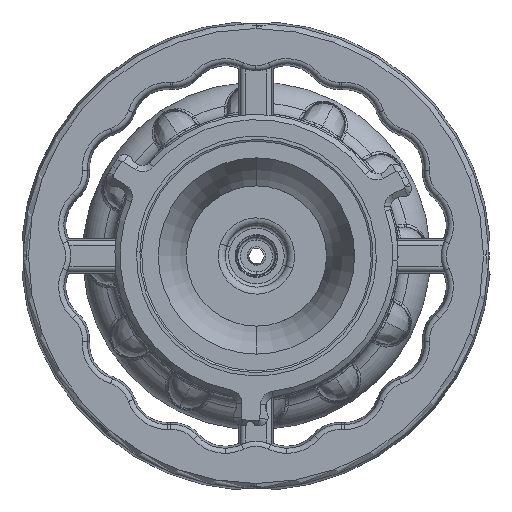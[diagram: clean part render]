
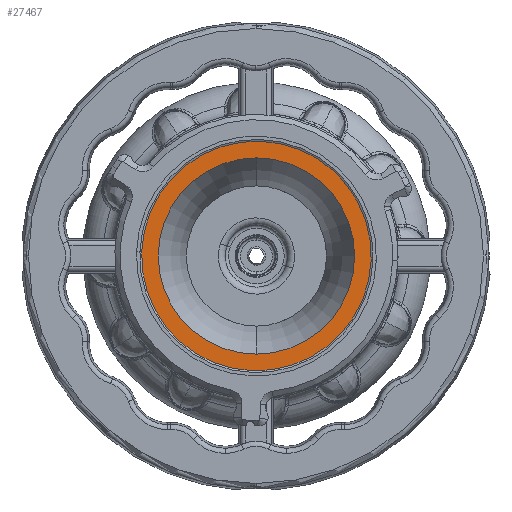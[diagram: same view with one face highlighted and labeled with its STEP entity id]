
A CAD part, left-side view. The second image highlights one B-rep face of the part: STEP entity #27467.
In plain terms, the highlighted planar face has unit normal (-1, 0, 0).
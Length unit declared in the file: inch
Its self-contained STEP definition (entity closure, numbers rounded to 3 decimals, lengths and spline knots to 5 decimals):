
#3958 = CARTESIAN_POINT ( 'NONE',  ( -3.475, 0., -1.75 ) ) ;
#3960 = CARTESIAN_POINT ( 'NONE',  ( -3.475, 0., 1.75 ) ) ;
#3968 = CARTESIAN_POINT ( 'NONE',  ( -3.475, 0., 2.15 ) ) ;
#3969 = CARTESIAN_POINT ( 'NONE',  ( -3.475, 0., -2.15 ) ) ;
#14738 = CIRCLE ( 'NONE', #21449, 1.75 ) ;
#14746 = CIRCLE ( 'NONE', #21457, 2.15 ) ;
#14748 = CIRCLE ( 'NONE', #21460, 2.15 ) ;
#14749 = CIRCLE ( 'NONE', #21461, 1.75 ) ;
#21449 = AXIS2_PLACEMENT_3D ( 'NONE', #26394, #26395, #26396 ) ;
#21457 = AXIS2_PLACEMENT_3D ( 'NONE', #26418, #26419, #26420 ) ;
#21460 = AXIS2_PLACEMENT_3D ( 'NONE', #26427, #26428, #26429 ) ;
#21461 = AXIS2_PLACEMENT_3D ( 'NONE', #26432, #26433, #26434 ) ;
#26394 = CARTESIAN_POINT ( 'NONE',  ( -3.475, 0., 0. ) ) ;
#26395 = DIRECTION ( 'NONE',  ( -1., 0., 0. ) ) ;
#26396 = DIRECTION ( 'NONE',  ( 0., 0., 1. ) ) ;
#26418 = CARTESIAN_POINT ( 'NONE',  ( -3.475, 0., 0. ) ) ;
#26419 = DIRECTION ( 'NONE',  ( -1., 0., 0. ) ) ;
#26420 = DIRECTION ( 'NONE',  ( 0., 0., 1. ) ) ;
#26427 = CARTESIAN_POINT ( 'NONE',  ( -3.475, 0., 0. ) ) ;
#26428 = DIRECTION ( 'NONE',  ( -1., 0., 0. ) ) ;
#26429 = DIRECTION ( 'NONE',  ( 0., 0., 1. ) ) ;
#26432 = CARTESIAN_POINT ( 'NONE',  ( -3.475, 0., 0. ) ) ;
#26433 = DIRECTION ( 'NONE',  ( -1., 0., 0. ) ) ;
#26434 = DIRECTION ( 'NONE',  ( 0., 0., 1. ) ) ;
#27467 = ADVANCED_FACE ( 'NONE', ( #38197, #38191 ), #41038, .F. ) ;
#28577 = AXIS2_PLACEMENT_3D ( 'NONE', #41028, #41044, #41047 ) ;
#31993 = EDGE_LOOP ( 'NONE', ( #44140, #44142 ) ) ;
#32003 = EDGE_LOOP ( 'NONE', ( #44136, #44138 ) ) ;
#36537 = EDGE_CURVE ( 'NONE', #61606, #61604, #14738, .T. ) ;
#36545 = EDGE_CURVE ( 'NONE', #61615, #61616, #14746, .T. ) ;
#36548 = EDGE_CURVE ( 'NONE', #61616, #61615, #14748, .T. ) ;
#36549 = EDGE_CURVE ( 'NONE', #61604, #61606, #14749, .T. ) ;
#38191 = FACE_OUTER_BOUND ( 'NONE', #31993, .T. ) ;
#38197 = FACE_BOUND ( 'NONE', #32003, .T. ) ;
#41028 = CARTESIAN_POINT ( 'NONE',  ( -3.475, 0., 0. ) ) ;
#41038 = PLANE ( 'NONE',  #28577 ) ;
#41044 = DIRECTION ( 'NONE',  ( 1., 0., 0. ) ) ;
#41047 = DIRECTION ( 'NONE',  ( 0., 0., -1. ) ) ;
#44136 = ORIENTED_EDGE ( 'NONE', *, *, #36537, .F. ) ;
#44138 = ORIENTED_EDGE ( 'NONE', *, *, #36549, .F. ) ;
#44140 = ORIENTED_EDGE ( 'NONE', *, *, #36545, .T. ) ;
#44142 = ORIENTED_EDGE ( 'NONE', *, *, #36548, .T. ) ;
#61604 = VERTEX_POINT ( 'NONE', #3958 ) ;
#61606 = VERTEX_POINT ( 'NONE', #3960 ) ;
#61615 = VERTEX_POINT ( 'NONE', #3968 ) ;
#61616 = VERTEX_POINT ( 'NONE', #3969 ) ;
